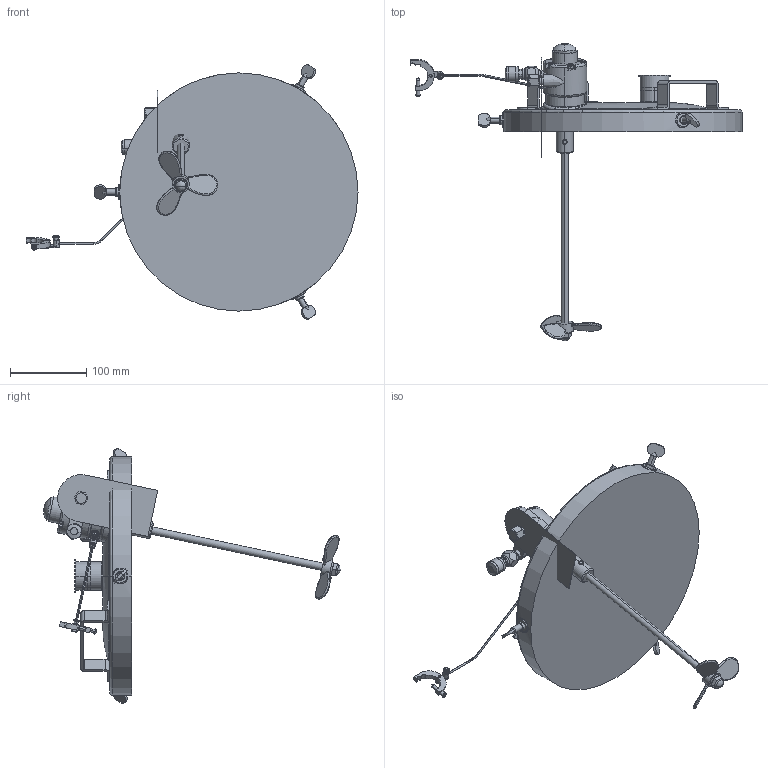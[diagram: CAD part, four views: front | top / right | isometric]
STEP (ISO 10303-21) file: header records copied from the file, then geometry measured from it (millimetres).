
FILE_DESCRIPTION((''),'2;1');
FILE_NAME('226086-EN-U_PRT','2019-12-31T16:03:28',('qusrh3'),(''),'CREO PARAMETRIC BY PTC INC, 2019030','CREO PARAMETRIC BY PTC INC, 2019030','');
FILE_SCHEMA(('CONFIG_CONTROL_DESIGN'));
Length unit declared in the file: inch
Products named in the file (1): 226086-EN-U_PRT
Bounding box: 435.68 x 389.96 x 333.93 mm (x, y, z)
Surface area: 329878.2 mm2 (no closed solid volume)
Topology: 0 solids, 58 shells, 497 faces, 1280 edges, 820 vertices
Faces by surface type: plane 188, cylinder 170, cone 55, torus 44, bspline 28, sphere 12
Entity records: 21446 total; most frequent: CARTESIAN_POINT 9627, DIRECTION 2586, ORIENTED_EDGE 2283, EDGE_CURVE 1274, AXIS2_PLACEMENT_3D 1045, VERTEX_POINT 820, CIRCLE 576, EDGE_LOOP 497
